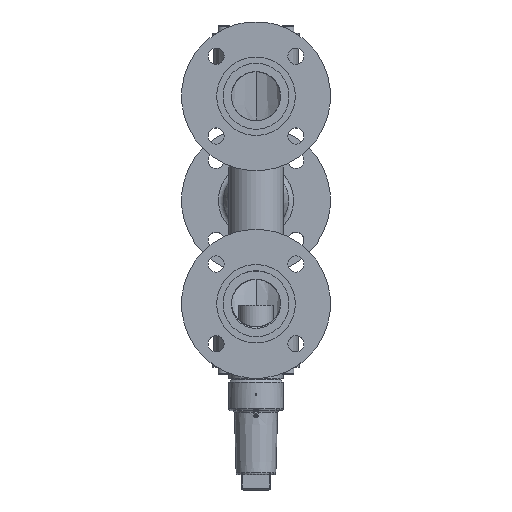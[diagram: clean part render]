
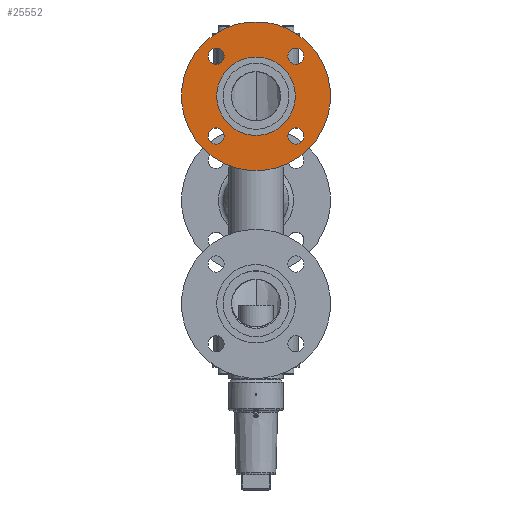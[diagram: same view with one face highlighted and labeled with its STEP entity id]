
A CAD part, top view. The second image highlights one B-rep face of the part: STEP entity #25552.
In plain terms, the highlighted planar face has unit normal (0, 0, 1) as drawn and (0, -1, 0) by its records, which use the part's own axes.
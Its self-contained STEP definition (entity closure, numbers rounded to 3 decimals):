
#32771 = CARTESIAN_POINT ( 'NONE',  ( 43.5, 4., 0. ) ) ;
#32772 = FACE_BOUND ( 'NONE', #25090, .T. ) ;
#32773 = FACE_BOUND ( 'NONE', #22629, .T. ) ;
#32774 = FACE_BOUND ( 'NONE', #2424, .T. ) ;
#32775 = FACE_BOUND ( 'NONE', #34883, .T. ) ;
#32776 = FACE_BOUND ( 'NONE', #32924, .T. ) ;
#32777 = FACE_OUTER_BOUND ( 'NONE', #12184, .T. ) ;
#32778 = PLANE ( 'NONE',  #32800 ) ;
#32800 = AXIS2_PLACEMENT_3D ( 'NONE', #32801, #32802, #32803 ) ;
#32801 = CARTESIAN_POINT ( 'NONE',  ( 0., 4., 0. ) ) ;
#32802 = DIRECTION ( 'NONE',  ( 0., -1., 0. ) ) ;
#32803 = DIRECTION ( 'NONE',  ( 1., 0., 0. ) ) ;
#32924 = EDGE_LOOP ( 'NONE', ( #31935, #30954 ) ) ;
#340 = ORIENTED_EDGE ( 'NONE', *, *, #35140, .F. ) ;
#33380 = ORIENTED_EDGE ( 'NONE', *, *, #15174, .T. ) ;
#1104 = ORIENTED_EDGE ( 'NONE', *, *, #25984, .F. ) ;
#34347 = ORIENTED_EDGE ( 'NONE', *, *, #2816, .T. ) ;
#34883 = EDGE_LOOP ( 'NONE', ( #34347, #33380 ) ) ;
#34955 = CIRCLE ( 'NONE', #34956, 9. ) ;
#34956 = AXIS2_PLACEMENT_3D ( 'NONE', #34957, #34960, #34961 ) ;
#34957 = CARTESIAN_POINT ( 'NONE',  ( -62.5, 4., 0. ) ) ;
#34960 = DIRECTION ( 'NONE',  ( 0., 1., 0. ) ) ;
#34961 = DIRECTION ( 'NONE',  ( 1., 0., 0. ) ) ;
#2297 = CARTESIAN_POINT ( 'NONE',  ( -82.5, 4., 0. ) ) ;
#35140 = EDGE_CURVE ( 'NONE', #25126, #25551, #13598, .T. ) ;
#2424 = EDGE_LOOP ( 'NONE', ( #1104, #340 ) ) ;
#2807 = CARTESIAN_POINT ( 'NONE',  ( 82.5, 4., 0. ) ) ;
#2816 = EDGE_CURVE ( 'NONE', #14318, #14747, #20655, .T. ) ;
#2890 = ORIENTED_EDGE ( 'NONE', *, *, #23310, .T. ) ;
#3478 = CIRCLE ( 'NONE', #3479, 82.5 ) ;
#3479 = AXIS2_PLACEMENT_3D ( 'NONE', #3480, #3481, #3482 ) ;
#3480 = CARTESIAN_POINT ( 'NONE',  ( 0., 4., 0. ) ) ;
#3481 = DIRECTION ( 'NONE',  ( 0., -1., 0. ) ) ;
#3482 = DIRECTION ( 'NONE',  ( 1., 0., 0. ) ) ;
#3483 = CIRCLE ( 'NONE', #3484, 82.5 ) ;
#3484 = AXIS2_PLACEMENT_3D ( 'NONE', #3485, #3486, #3487 ) ;
#3485 = CARTESIAN_POINT ( 'NONE',  ( 0., 4., 0. ) ) ;
#3486 = DIRECTION ( 'NONE',  ( 0., -1., 0. ) ) ;
#3487 = DIRECTION ( 'NONE',  ( 1., 0., 0. ) ) ;
#3490 = EDGE_CURVE ( 'NONE', #20902, #20466, #20981, .T. ) ;
#20466 = VERTEX_POINT ( 'NONE', #23790 ) ;
#20655 = CIRCLE ( 'NONE', #20656, 9. ) ;
#20656 = AXIS2_PLACEMENT_3D ( 'NONE', #20657, #20658, #20659 ) ;
#20657 = CARTESIAN_POINT ( 'NONE',  ( 0., 4., -62.5 ) ) ;
#20658 = DIRECTION ( 'NONE',  ( 0., 1., 0. ) ) ;
#20659 = DIRECTION ( 'NONE',  ( 1., 0., 0. ) ) ;
#20902 = VERTEX_POINT ( 'NONE', #24076 ) ;
#20981 = CIRCLE ( 'NONE', #20982, 9. ) ;
#20982 = AXIS2_PLACEMENT_3D ( 'NONE', #20983, #20984, #21002 ) ;
#20983 = CARTESIAN_POINT ( 'NONE',  ( 62.5, 4., 0. ) ) ;
#20984 = DIRECTION ( 'NONE',  ( 0., 1., 0. ) ) ;
#21002 = DIRECTION ( 'NONE',  ( 1., 0., 0. ) ) ;
#4856 = EDGE_CURVE ( 'NONE', #20466, #20902, #22996, .T. ) ;
#21675 = ORIENTED_EDGE ( 'NONE', *, *, #27653, .T. ) ;
#5299 = CARTESIAN_POINT ( 'NONE',  ( -9., 4., 62.5 ) ) ;
#5695 = CARTESIAN_POINT ( 'NONE',  ( 9., 4., 62.5 ) ) ;
#6045 = CIRCLE ( 'NONE', #6046, 9. ) ;
#6046 = AXIS2_PLACEMENT_3D ( 'NONE', #6047, #6048, #6049 ) ;
#6047 = CARTESIAN_POINT ( 'NONE',  ( 0., 4., 62.5 ) ) ;
#6048 = DIRECTION ( 'NONE',  ( 0., 1., 0. ) ) ;
#6049 = DIRECTION ( 'NONE',  ( 1., 0., 0. ) ) ;
#22452 = VERTEX_POINT ( 'NONE', #29989 ) ;
#22629 = EDGE_LOOP ( 'NONE', ( #21675, #2890 ) ) ;
#22881 = VERTEX_POINT ( 'NONE', #30375 ) ;
#22996 = CIRCLE ( 'NONE', #22997, 9. ) ;
#22997 = AXIS2_PLACEMENT_3D ( 'NONE', #22998, #22999, #23000 ) ;
#22998 = CARTESIAN_POINT ( 'NONE',  ( 62.5, 4., 0. ) ) ;
#22999 = DIRECTION ( 'NONE',  ( 0., 1., 0. ) ) ;
#23000 = DIRECTION ( 'NONE',  ( 1., 0., 0. ) ) ;
#23098 = ORIENTED_EDGE ( 'NONE', *, *, #3490, .T. ) ;
#23310 = EDGE_CURVE ( 'NONE', #22881, #22452, #30651, .T. ) ;
#23790 = CARTESIAN_POINT ( 'NONE',  ( 53.5, 4., 0. ) ) ;
#24076 = CARTESIAN_POINT ( 'NONE',  ( 71.5, 4., 0. ) ) ;
#24085 = ORIENTED_EDGE ( 'NONE', *, *, #4856, .T. ) ;
#7800 = CARTESIAN_POINT ( 'NONE',  ( -9., 4., -62.5 ) ) ;
#25090 = EDGE_LOOP ( 'NONE', ( #24085, #23098 ) ) ;
#25126 = VERTEX_POINT ( 'NONE', #32104 ) ;
#8755 = CARTESIAN_POINT ( 'NONE',  ( 9., 4., -62.5 ) ) ;
#25551 = VERTEX_POINT ( 'NONE', #32771 ) ;
#25552 = ADVANCED_FACE ( 'NONE', ( #32772, #32773, #32774, #32775, #32776, #32777 ), #32778, .T. ) ;
#9178 = CIRCLE ( 'NONE', #9179, 9. ) ;
#9179 = AXIS2_PLACEMENT_3D ( 'NONE', #9180, #9181, #9182 ) ;
#9180 = CARTESIAN_POINT ( 'NONE',  ( 0., 4., -62.5 ) ) ;
#9181 = DIRECTION ( 'NONE',  ( 0., 1., 0. ) ) ;
#9182 = DIRECTION ( 'NONE',  ( 1., 0., 0. ) ) ;
#25984 = EDGE_CURVE ( 'NONE', #25551, #25126, #26614, .T. ) ;
#10175 = ORIENTED_EDGE ( 'NONE', *, *, #29716, .T. ) ;
#26614 = CIRCLE ( 'NONE', #26615, 43.5 ) ;
#26615 = AXIS2_PLACEMENT_3D ( 'NONE', #26616, #26617, #26618 ) ;
#26616 = CARTESIAN_POINT ( 'NONE',  ( 0., 4., 0. ) ) ;
#26617 = DIRECTION ( 'NONE',  ( 0., -1., 0. ) ) ;
#26618 = DIRECTION ( 'NONE',  ( 1., 0., 0. ) ) ;
#11065 = CIRCLE ( 'NONE', #11066, 9. ) ;
#11066 = AXIS2_PLACEMENT_3D ( 'NONE', #11067, #11085, #11086 ) ;
#11067 = CARTESIAN_POINT ( 'NONE',  ( 0., 4., 62.5 ) ) ;
#11085 = DIRECTION ( 'NONE',  ( 0., 1., 0. ) ) ;
#11086 = DIRECTION ( 'NONE',  ( 1., 0., 0. ) ) ;
#11175 = ORIENTED_EDGE ( 'NONE', *, *, #11466, .T. ) ;
#27653 = EDGE_CURVE ( 'NONE', #22452, #22881, #34955, .T. ) ;
#11466 = EDGE_CURVE ( 'NONE', #28862, #29285, #3483, .T. ) ;
#12184 = EDGE_LOOP ( 'NONE', ( #11175, #10175 ) ) ;
#28862 = VERTEX_POINT ( 'NONE', #2297 ) ;
#29285 = VERTEX_POINT ( 'NONE', #2807 ) ;
#29716 = EDGE_CURVE ( 'NONE', #29285, #28862, #3478, .T. ) ;
#13598 = CIRCLE ( 'NONE', #13599, 43.5 ) ;
#13599 = AXIS2_PLACEMENT_3D ( 'NONE', #13600, #13601, #13602 ) ;
#13600 = CARTESIAN_POINT ( 'NONE',  ( 0., 4., 0. ) ) ;
#13601 = DIRECTION ( 'NONE',  ( 0., -1., 0. ) ) ;
#13602 = DIRECTION ( 'NONE',  ( 1., 0., 0. ) ) ;
#29989 = CARTESIAN_POINT ( 'NONE',  ( -71.5, 4., 0. ) ) ;
#30375 = CARTESIAN_POINT ( 'NONE',  ( -53.5, 4., 0. ) ) ;
#30651 = CIRCLE ( 'NONE', #30652, 9. ) ;
#30652 = AXIS2_PLACEMENT_3D ( 'NONE', #30653, #30654, #30655 ) ;
#30653 = CARTESIAN_POINT ( 'NONE',  ( -62.5, 4., 0. ) ) ;
#30654 = DIRECTION ( 'NONE',  ( 0., 1., 0. ) ) ;
#30655 = DIRECTION ( 'NONE',  ( 1., 0., 0. ) ) ;
#14318 = VERTEX_POINT ( 'NONE', #7800 ) ;
#30775 = VERTEX_POINT ( 'NONE', #5299 ) ;
#30954 = ORIENTED_EDGE ( 'NONE', *, *, #31449, .T. ) ;
#31028 = VERTEX_POINT ( 'NONE', #5695 ) ;
#14747 = VERTEX_POINT ( 'NONE', #8755 ) ;
#31449 = EDGE_CURVE ( 'NONE', #31028, #30775, #6045, .T. ) ;
#15174 = EDGE_CURVE ( 'NONE', #14747, #14318, #9178, .T. ) ;
#31935 = ORIENTED_EDGE ( 'NONE', *, *, #16064, .T. ) ;
#32104 = CARTESIAN_POINT ( 'NONE',  ( -43.5, 4., 0. ) ) ;
#16064 = EDGE_CURVE ( 'NONE', #30775, #31028, #11065, .T. ) ;
